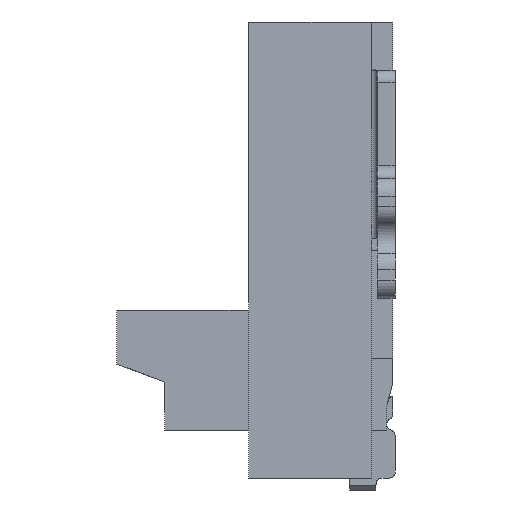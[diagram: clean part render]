
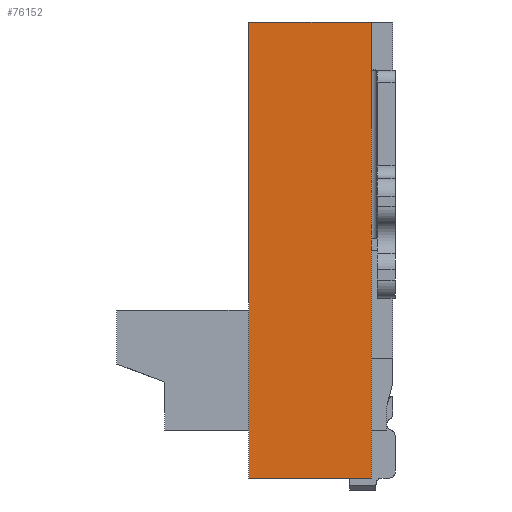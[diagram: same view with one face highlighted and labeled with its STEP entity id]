
A CAD part, left-side view. The second image highlights one B-rep face of the part: STEP entity #76152.
In plain terms, the highlighted planar face has unit normal (-1, 0, 0).
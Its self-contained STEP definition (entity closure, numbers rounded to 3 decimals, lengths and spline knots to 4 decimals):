
#1200 = LINE ( 'NONE', #69785, #74280 ) ;
#2003 = AXIS2_PLACEMENT_3D ( 'NONE', #18558, #17104, #84695 ) ;
#2682 = FACE_OUTER_BOUND ( 'NONE', #28225, .T. ) ;
#8424 = ORIENTED_EDGE ( 'NONE', *, *, #80869, .T. ) ;
#8873 = VERTEX_POINT ( 'NONE', #31247 ) ;
#10572 = CARTESIAN_POINT ( 'NONE',  ( -8.9, 1.22, 3.8 ) ) ;
#13376 = EDGE_CURVE ( 'NONE', #28511, #8873, #80141, .T. ) ;
#17081 = EDGE_CURVE ( 'NONE', #8873, #65665, #1200, .T. ) ;
#17104 = DIRECTION ( 'NONE',  ( 1., 0., 0. ) ) ;
#17465 = CARTESIAN_POINT ( 'NONE',  ( -8.9, 0.2, 0. ) ) ;
#18558 = CARTESIAN_POINT ( 'NONE',  ( -8.9, 0.71, 1.9 ) ) ;
#26474 = DIRECTION ( 'NONE',  ( 0., 0., -1. ) ) ;
#28225 = EDGE_LOOP ( 'NONE', ( #72334, #59061, #49597, #8424 ) ) ;
#28511 = VERTEX_POINT ( 'NONE', #63490 ) ;
#31247 = CARTESIAN_POINT ( 'NONE',  ( -8.9, 1.22, 0. ) ) ;
#49597 = ORIENTED_EDGE ( 'NONE', *, *, #17081, .T. ) ;
#53889 = DIRECTION ( 'NONE',  ( 0., -1., 0. ) ) ;
#54393 = PLANE ( 'NONE',  #2003 ) ;
#54470 = VECTOR ( 'NONE', #61717, 1000. ) ;
#56117 = CARTESIAN_POINT ( 'NONE',  ( -8.9, 0.2, 3.8 ) ) ;
#58503 = VERTEX_POINT ( 'NONE', #80770 ) ;
#59061 = ORIENTED_EDGE ( 'NONE', *, *, #13376, .T. ) ;
#61228 = LINE ( 'NONE', #17465, #54470 ) ;
#61717 = DIRECTION ( 'NONE',  ( 0., 0., 1. ) ) ;
#62362 = EDGE_CURVE ( 'NONE', #58503, #28511, #86901, .T. ) ;
#63490 = CARTESIAN_POINT ( 'NONE',  ( -8.9, 1.22, 3.8 ) ) ;
#65665 = VERTEX_POINT ( 'NONE', #92589 ) ;
#69785 = CARTESIAN_POINT ( 'NONE',  ( -8.9, 1.22, 0. ) ) ;
#72334 = ORIENTED_EDGE ( 'NONE', *, *, #62362, .T. ) ;
#74280 = VECTOR ( 'NONE', #53889, 1000. ) ;
#74757 = VECTOR ( 'NONE', #95313, 1000. ) ;
#76152 = ADVANCED_FACE ( 'NONE', ( #2682 ), #54393, .F. ) ;
#80141 = LINE ( 'NONE', #10572, #89739 ) ;
#80770 = CARTESIAN_POINT ( 'NONE',  ( -8.9, 0.2, 3.8 ) ) ;
#80869 = EDGE_CURVE ( 'NONE', #65665, #58503, #61228, .T. ) ;
#84695 = DIRECTION ( 'NONE',  ( 0., 1., 0. ) ) ;
#86901 = LINE ( 'NONE', #56117, #74757 ) ;
#89739 = VECTOR ( 'NONE', #26474, 1000. ) ;
#92589 = CARTESIAN_POINT ( 'NONE',  ( -8.9, 0.2, 0. ) ) ;
#95313 = DIRECTION ( 'NONE',  ( 0., 1., 0. ) ) ;
